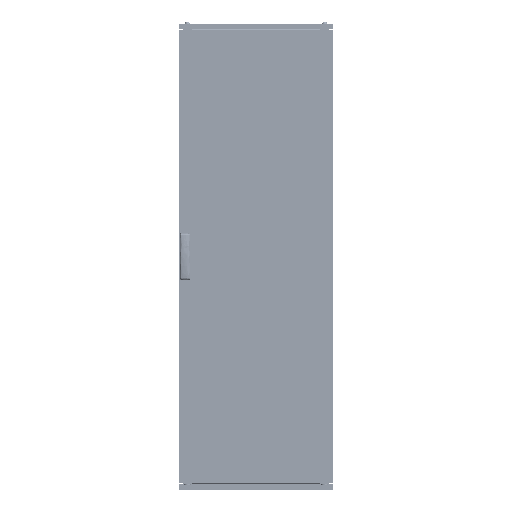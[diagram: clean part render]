
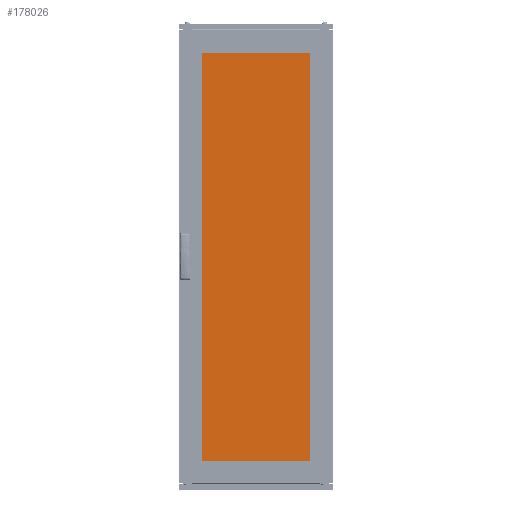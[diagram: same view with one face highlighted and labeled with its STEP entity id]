
A CAD part, top view. The second image highlights one B-rep face of the part: STEP entity #178026.
In plain terms, the highlighted planar face has unit normal (0, 0, 1).
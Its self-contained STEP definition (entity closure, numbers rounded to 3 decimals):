
#2781 = ORIENTED_EDGE ( 'NONE', *, *, #166575, .T. ) ;
#12124 = AXIS2_PLACEMENT_3D ( 'NONE', #205533, #60326, #172673 ) ;
#15355 = CARTESIAN_POINT ( 'NONE',  ( -230., -810., 5. ) ) ;
#20764 = VERTEX_POINT ( 'NONE', #208231 ) ;
#23010 = VERTEX_POINT ( 'NONE', #187044 ) ;
#29608 = FACE_OUTER_BOUND ( 'NONE', #184801, .T. ) ;
#31468 = VECTOR ( 'NONE', #45418, 1000. ) ;
#33981 = DIRECTION ( 'NONE',  ( 0., 1., 0. ) ) ;
#42738 = CARTESIAN_POINT ( 'NONE',  ( -230., -810., 5. ) ) ;
#45418 = DIRECTION ( 'NONE',  ( -1., 0., 0. ) ) ;
#46165 = ORIENTED_EDGE ( 'NONE', *, *, #184453, .T. ) ;
#60326 = DIRECTION ( 'NONE',  ( 0., 0., -1. ) ) ;
#67609 = EDGE_CURVE ( 'NONE', #201373, #23010, #96565, .T. ) ;
#76268 = LINE ( 'NONE', #126035, #31468 ) ;
#78793 = LINE ( 'NONE', #42738, #97567 ) ;
#96565 = LINE ( 'NONE', #163282, #114705 ) ;
#97567 = VECTOR ( 'NONE', #205898, 1000. ) ;
#98788 = CARTESIAN_POINT ( 'NONE',  ( 230., -810., 5. ) ) ;
#114705 = VECTOR ( 'NONE', #33981, 1000. ) ;
#118844 = LINE ( 'NONE', #133685, #128191 ) ;
#126035 = CARTESIAN_POINT ( 'NONE',  ( -230., 810., 5. ) ) ;
#128191 = VECTOR ( 'NONE', #183384, 1000. ) ;
#133685 = CARTESIAN_POINT ( 'NONE',  ( -230., -810., 5. ) ) ;
#159034 = EDGE_CURVE ( 'NONE', #200512, #201373, #78793, .T. ) ;
#160257 = ORIENTED_EDGE ( 'NONE', *, *, #159034, .T. ) ;
#163282 = CARTESIAN_POINT ( 'NONE',  ( 230., -810., 5. ) ) ;
#166575 = EDGE_CURVE ( 'NONE', #20764, #200512, #118844, .T. ) ;
#172673 = DIRECTION ( 'NONE',  ( -1., 0., 0. ) ) ;
#178026 = ADVANCED_FACE ( 'NONE', ( #29608 ), #206564, .F. ) ;
#183384 = DIRECTION ( 'NONE',  ( 0., -1., 0. ) ) ;
#184365 = ORIENTED_EDGE ( 'NONE', *, *, #67609, .T. ) ;
#184453 = EDGE_CURVE ( 'NONE', #23010, #20764, #76268, .T. ) ;
#184801 = EDGE_LOOP ( 'NONE', ( #184365, #46165, #2781, #160257 ) ) ;
#187044 = CARTESIAN_POINT ( 'NONE',  ( 230., 810., 5. ) ) ;
#200512 = VERTEX_POINT ( 'NONE', #15355 ) ;
#201373 = VERTEX_POINT ( 'NONE', #98788 ) ;
#205533 = CARTESIAN_POINT ( 'NONE',  ( 0., 0., 5. ) ) ;
#205898 = DIRECTION ( 'NONE',  ( 1., 0., 0. ) ) ;
#206564 = PLANE ( 'NONE',  #12124 ) ;
#208231 = CARTESIAN_POINT ( 'NONE',  ( -230., 810., 5. ) ) ;
